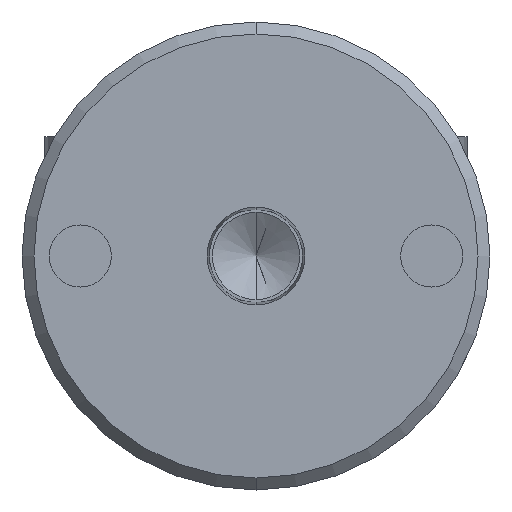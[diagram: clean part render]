
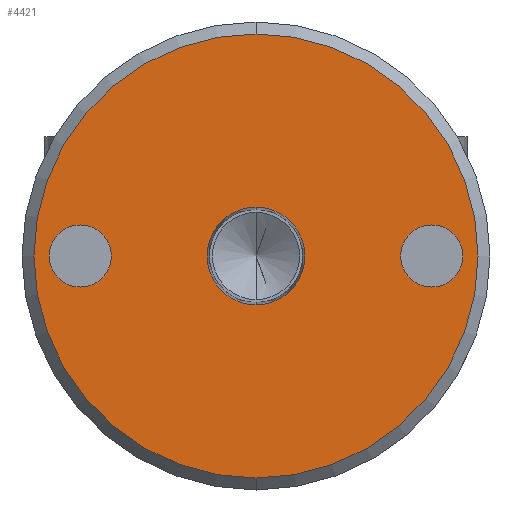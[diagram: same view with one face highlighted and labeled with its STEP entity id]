
A CAD part, front view. The second image highlights one B-rep face of the part: STEP entity #4421.
In plain terms, the highlighted planar face has unit normal (0, -1, 0).
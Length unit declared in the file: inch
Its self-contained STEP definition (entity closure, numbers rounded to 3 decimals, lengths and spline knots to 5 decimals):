
#74 = CARTESIAN_POINT ( 'NONE',  ( -0.8825, 0., 0. ) ) ;
#135 = EDGE_CURVE ( 'NONE', #5196, #4425, #788, .T. ) ;
#330 = AXIS2_PLACEMENT_3D ( 'NONE', #74, #3058, #514 ) ;
#373 = CARTESIAN_POINT ( 'NONE',  ( 0.8825, 0., -0.156 ) ) ;
#416 = ORIENTED_EDGE ( 'NONE', *, *, #135, .F. ) ;
#429 = EDGE_CURVE ( 'NONE', #943, #2827, #1556, .T. ) ;
#454 = EDGE_CURVE ( 'NONE', #3478, #5593, #2830, .T. ) ;
#512 = CIRCLE ( 'NONE', #1642, 1.115 ) ;
#514 = DIRECTION ( 'NONE',  ( 0., 0., 1. ) ) ;
#558 = DIRECTION ( 'NONE',  ( 0., 1., 0. ) ) ;
#588 = AXIS2_PLACEMENT_3D ( 'NONE', #4656, #4126, #1984 ) ;
#622 = FACE_BOUND ( 'NONE', #4918, .T. ) ;
#788 = CIRCLE ( 'NONE', #588, 0.24568 ) ;
#932 = CARTESIAN_POINT ( 'NONE',  ( 0.8825, 0., 0. ) ) ;
#943 = VERTEX_POINT ( 'NONE', #5228 ) ;
#1080 = CIRCLE ( 'NONE', #2955, 0.156 ) ;
#1081 = EDGE_LOOP ( 'NONE', ( #1918, #1564 ) ) ;
#1082 = VERTEX_POINT ( 'NONE', #3464 ) ;
#1109 = EDGE_CURVE ( 'NONE', #1082, #4194, #3705, .T. ) ;
#1250 = DIRECTION ( 'NONE',  ( 0., -1., 0. ) ) ;
#1345 = DIRECTION ( 'NONE',  ( 0., 0., -1. ) ) ;
#1428 = DIRECTION ( 'NONE',  ( 0., 0., 1. ) ) ;
#1460 = CARTESIAN_POINT ( 'NONE',  ( 0.8825, 0., 0. ) ) ;
#1485 = EDGE_CURVE ( 'NONE', #2827, #943, #512, .T. ) ;
#1556 = CIRCLE ( 'NONE', #3908, 1.115 ) ;
#1564 = ORIENTED_EDGE ( 'NONE', *, *, #1485, .T. ) ;
#1590 = EDGE_LOOP ( 'NONE', ( #5282, #2942 ) ) ;
#1595 = FACE_BOUND ( 'NONE', #1590, .T. ) ;
#1642 = AXIS2_PLACEMENT_3D ( 'NONE', #3802, #1250, #4248 ) ;
#1657 = CARTESIAN_POINT ( 'NONE',  ( 0., 0., -0.24568 ) ) ;
#1668 = ORIENTED_EDGE ( 'NONE', *, *, #4955, .F. ) ;
#1739 = CARTESIAN_POINT ( 'NONE',  ( 0., 0., 0. ) ) ;
#1740 = DIRECTION ( 'NONE',  ( 0., -1., 0. ) ) ;
#1882 = FACE_OUTER_BOUND ( 'NONE', #1081, .T. ) ;
#1893 = DIRECTION ( 'NONE',  ( 0., 0., -1. ) ) ;
#1918 = ORIENTED_EDGE ( 'NONE', *, *, #429, .T. ) ;
#1984 = DIRECTION ( 'NONE',  ( 0., 0., -1. ) ) ;
#2081 = CARTESIAN_POINT ( 'NONE',  ( -0.8825, 0., 0. ) ) ;
#2170 = DIRECTION ( 'NONE',  ( 0., 0., -1. ) ) ;
#2176 = CARTESIAN_POINT ( 'NONE',  ( 0., 0., -1.115 ) ) ;
#2312 = CARTESIAN_POINT ( 'NONE',  ( 0., 0., 0.24568 ) ) ;
#2522 = DIRECTION ( 'NONE',  ( 0., 0., 1. ) ) ;
#2591 = EDGE_LOOP ( 'NONE', ( #4120, #3131 ) ) ;
#2747 = FACE_BOUND ( 'NONE', #2591, .T. ) ;
#2827 = VERTEX_POINT ( 'NONE', #2176 ) ;
#2830 = CIRCLE ( 'NONE', #4501, 0.156 ) ;
#2859 = CIRCLE ( 'NONE', #4522, 0.24568 ) ;
#2942 = ORIENTED_EDGE ( 'NONE', *, *, #5442, .T. ) ;
#2955 = AXIS2_PLACEMENT_3D ( 'NONE', #2081, #5128, #2522 ) ;
#3058 = DIRECTION ( 'NONE',  ( 0., 1., 0. ) ) ;
#3131 = ORIENTED_EDGE ( 'NONE', *, *, #5149, .T. ) ;
#3464 = CARTESIAN_POINT ( 'NONE',  ( -0.8825, 0., -0.156 ) ) ;
#3478 = VERTEX_POINT ( 'NONE', #373 ) ;
#3572 = CARTESIAN_POINT ( 'NONE',  ( 0., 0., 0. ) ) ;
#3705 = CIRCLE ( 'NONE', #330, 0.156 ) ;
#3802 = CARTESIAN_POINT ( 'NONE',  ( 0., 0., 0. ) ) ;
#3901 = DIRECTION ( 'NONE',  ( 0., 1., 0. ) ) ;
#3908 = AXIS2_PLACEMENT_3D ( 'NONE', #4323, #1740, #4775 ) ;
#3980 = PLANE ( 'NONE',  #4552 ) ;
#4120 = ORIENTED_EDGE ( 'NONE', *, *, #1109, .T. ) ;
#4126 = DIRECTION ( 'NONE',  ( 0., -1., 0. ) ) ;
#4190 = CARTESIAN_POINT ( 'NONE',  ( -0.8825, 0., 0.156 ) ) ;
#4194 = VERTEX_POINT ( 'NONE', #4190 ) ;
#4248 = DIRECTION ( 'NONE',  ( 0., 0., 1. ) ) ;
#4323 = CARTESIAN_POINT ( 'NONE',  ( 0., 0., 0. ) ) ;
#4397 = AXIS2_PLACEMENT_3D ( 'NONE', #1460, #4477, #1893 ) ;
#4421 = ADVANCED_FACE ( 'NONE', ( #622, #1595, #1882, #2747 ), #3980, .F. ) ;
#4425 = VERTEX_POINT ( 'NONE', #2312 ) ;
#4477 = DIRECTION ( 'NONE',  ( 0., 1., 0. ) ) ;
#4501 = AXIS2_PLACEMENT_3D ( 'NONE', #932, #3901, #1345 ) ;
#4522 = AXIS2_PLACEMENT_3D ( 'NONE', #1739, #4774, #2170 ) ;
#4552 = AXIS2_PLACEMENT_3D ( 'NONE', #3572, #558, #1428 ) ;
#4656 = CARTESIAN_POINT ( 'NONE',  ( 0., 0., 0. ) ) ;
#4709 = CIRCLE ( 'NONE', #4397, 0.156 ) ;
#4774 = DIRECTION ( 'NONE',  ( 0., -1., 0. ) ) ;
#4775 = DIRECTION ( 'NONE',  ( 0., 0., 1. ) ) ;
#4918 = EDGE_LOOP ( 'NONE', ( #416, #1668 ) ) ;
#4955 = EDGE_CURVE ( 'NONE', #4425, #5196, #2859, .T. ) ;
#5003 = CARTESIAN_POINT ( 'NONE',  ( 0.8825, 0., 0.156 ) ) ;
#5128 = DIRECTION ( 'NONE',  ( 0., 1., 0. ) ) ;
#5149 = EDGE_CURVE ( 'NONE', #4194, #1082, #1080, .T. ) ;
#5196 = VERTEX_POINT ( 'NONE', #1657 ) ;
#5228 = CARTESIAN_POINT ( 'NONE',  ( 0., 0., 1.115 ) ) ;
#5282 = ORIENTED_EDGE ( 'NONE', *, *, #454, .T. ) ;
#5442 = EDGE_CURVE ( 'NONE', #5593, #3478, #4709, .T. ) ;
#5593 = VERTEX_POINT ( 'NONE', #5003 ) ;
